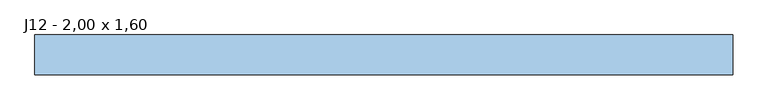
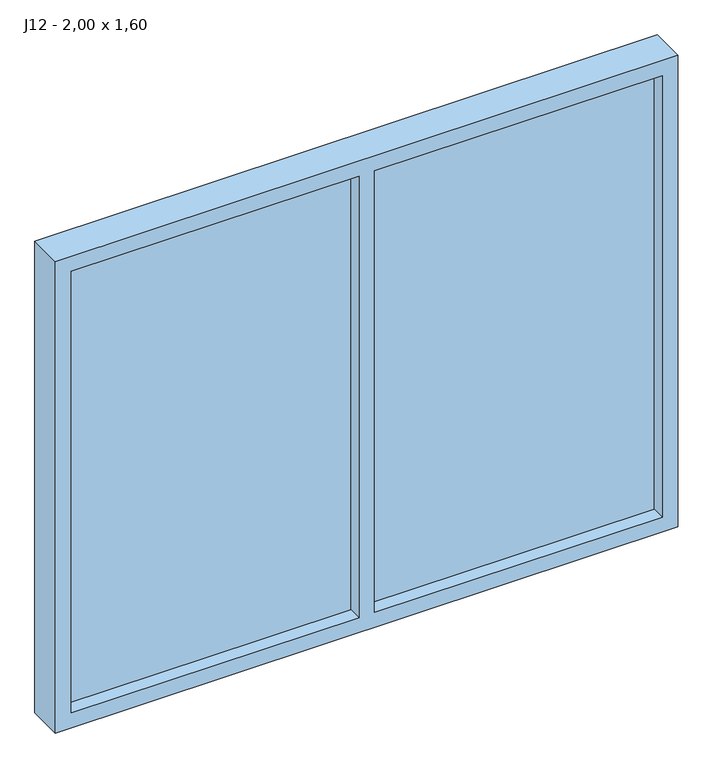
"""IFC4 building model written with IfcOpenShell, lengths in millimetres: window geometry, Abrir 2 Folhas : J12 - 2,00 x 1,60."""

from ifc_helpers import new_model, si_unit, frame, origin, place, context, project, spatial, polyline, outline, extrude, source, transform, mapped, element, save


def j12_2_00_x_1_60_1745ae86(model_context):
    return source(origin(), model_context, "Body", "SweptSolid", [
        extrude(outline(polyline([(-346.2, 31.7075246), (577.6, 31.7075246), (577.6, 6.3075246), (-346.2, 6.3075246), (-346.2, 31.7075246)])), frame((0.0, 0.0, 950.8), z_axis=(0.0, 0.0, 1.0), x_axis=(1.0, 0.0, 0.0)), (0.0, 0.0, 1.0), 1498.4),
        extrude(outline(polyline([(-1320.8, 31.7075246), (-397.0, 31.7075246), (-397.0, 6.3075246), (-1320.8, 6.3075246), (-1320.8, 31.7075246)])), frame((0.0, 0.0, 950.8), z_axis=(0.0, 0.0, 1.0), x_axis=(1.0, 0.0, 0.0)), (0.0, 0.0, 1.0), 1498.4),
        extrude(outline(polyline([(2500.0, -1371.6), (900.0, -1371.6), (900.0, 628.4), (2500.0, 628.4), (2500.0, -1371.6)]), holes=[polyline([(2449.2, -346.2), (2449.2, 577.6), (950.8, 577.6), (950.8, -346.2), (2449.2, -346.2)]), polyline([(2449.2, -1320.8), (2449.2, -397.0), (950.8, -397.0), (950.8, -1320.8), (2449.2, -1320.8)])]), frame((0.0, -38.1424754, 0.0), z_axis=(0.0, 1.0, 0.0), x_axis=(0.0, 0.0, 1.0)), (0.0, 0.0, 1.0), 114.3),
    ])


if __name__ == "__main__":
    model = new_model("IFC4")
    model_context = context("Model", 3, world=origin())
    ifc_project = project(units=[si_unit("LENGTHUNIT", "METRE", prefix="MILLI")], contexts=[model_context])
    site = spatial("IfcSite", under=ifc_project)
    building = spatial("IfcBuilding", under=site)
    placement = place(None, origin())
    j12_2_00_x_1_60_shape = j12_2_00_x_1_60_1745ae86(model_context)
    element("IfcWindow", 1, ObjectType="Abrir 2 Folhas : J12 - 2,00 x 1,60", at=placement, inside=building, context=model_context, shape_type="MappedRepresentation", body=[
        mapped(j12_2_00_x_1_60_shape, transform((0.0, 0.0, 0.0), x_axis=(1.0, 0.0, 0.0), y_axis=(0.0, 1.0, 0.0), z_axis=(0.0, 0.0, 1.0))),
    ])
    save(model, "model.ifc")
